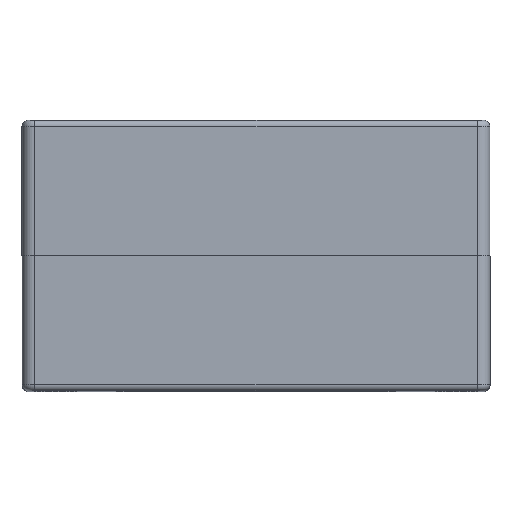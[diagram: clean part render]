
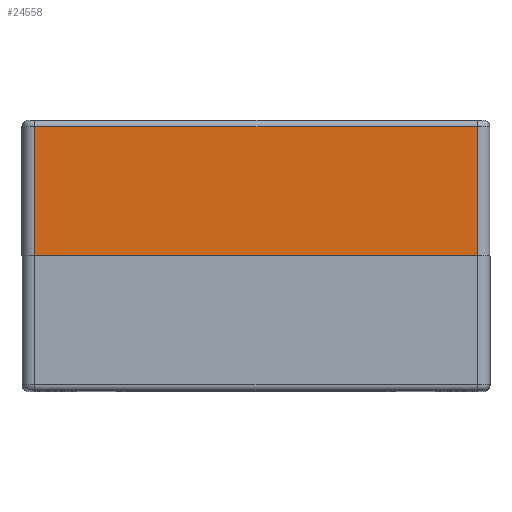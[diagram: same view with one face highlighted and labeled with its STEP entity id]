
A CAD part, top view. The second image highlights one B-rep face of the part: STEP entity #24558.
In plain terms, the highlighted planar face has unit normal (0, 0, 1) as drawn and (0, -1, 0) by its records, which use the part's own axes.
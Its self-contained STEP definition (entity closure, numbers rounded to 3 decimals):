
#7507 = EDGE_LOOP ( 'NONE', ( #10413, #10414, #10411, #10415 ) ) ;
#10411 = ORIENTED_EDGE ( 'NONE', *, *, #24684, .F. ) ;
#10413 = ORIENTED_EDGE ( 'NONE', *, *, #24622, .F. ) ;
#10414 = ORIENTED_EDGE ( 'NONE', *, *, #19819, .T. ) ;
#10415 = ORIENTED_EDGE ( 'NONE', *, *, #19971, .F. ) ;
#12515 = LINE ( 'NONE', #12516, #12687 ) ;
#12516 = CARTESIAN_POINT ( 'NONE',  ( -32., -52., -11. ) ) ;
#12517 = DIRECTION ( 'NONE',  ( 1., 0., 0. ) ) ;
#12687 = VECTOR ( 'NONE', #12517, 1000. ) ;
#12816 = VECTOR ( 'NONE', #13589, 1000. ) ;
#13587 = LINE ( 'NONE', #13588, #12816 ) ;
#13588 = CARTESIAN_POINT ( 'NONE',  ( -37.6, -52., 9.4 ) ) ;
#13589 = DIRECTION ( 'NONE',  ( 1., 0., 0. ) ) ;
#15736 = FACE_OUTER_BOUND ( 'NONE', #7507, .T. ) ;
#15739 = AXIS2_PLACEMENT_3D ( 'NONE', #16263, #16264, #16265 ) ;
#15813 = VECTOR ( 'NONE', #16500, 1000. ) ;
#15883 = VECTOR ( 'NONE', #16803, 1000. ) ;
#16259 = PLANE ( 'NONE',  #15739 ) ;
#16263 = CARTESIAN_POINT ( 'NONE',  ( -37.6, -52., -43.15 ) ) ;
#16264 = DIRECTION ( 'NONE',  ( 0., 1., 0. ) ) ;
#16265 = DIRECTION ( 'NONE',  ( -1., 0., 0. ) ) ;
#16498 = LINE ( 'NONE', #16499, #15813 ) ;
#16499 = CARTESIAN_POINT ( 'NONE',  ( -35., -52., -43.15 ) ) ;
#16500 = DIRECTION ( 'NONE',  ( 0., 0., 1. ) ) ;
#16801 = LINE ( 'NONE', #16802, #15883 ) ;
#16802 = CARTESIAN_POINT ( 'NONE',  ( 35., -52., -43.15 ) ) ;
#16803 = DIRECTION ( 'NONE',  ( 0., 0., -1. ) ) ;
#17485 = CARTESIAN_POINT ( 'NONE',  ( -35., -52., -11. ) ) ;
#17520 = CARTESIAN_POINT ( 'NONE',  ( 35., -52., -11. ) ) ;
#17576 = CARTESIAN_POINT ( 'NONE',  ( -35., -52., 9.4 ) ) ;
#17604 = CARTESIAN_POINT ( 'NONE',  ( 35., -52., 9.4 ) ) ;
#19819 = EDGE_CURVE ( 'NONE', #25347, #25382, #12515, .T. ) ;
#19971 = EDGE_CURVE ( 'NONE', #25438, #25466, #13587, .T. ) ;
#24558 = ADVANCED_FACE ( 'NONE', ( #15736 ), #16259, .F. ) ;
#24622 = EDGE_CURVE ( 'NONE', #25347, #25438, #16498, .T. ) ;
#24684 = EDGE_CURVE ( 'NONE', #25466, #25382, #16801, .T. ) ;
#25347 = VERTEX_POINT ( 'NONE', #17485 ) ;
#25382 = VERTEX_POINT ( 'NONE', #17520 ) ;
#25438 = VERTEX_POINT ( 'NONE', #17576 ) ;
#25466 = VERTEX_POINT ( 'NONE', #17604 ) ;
